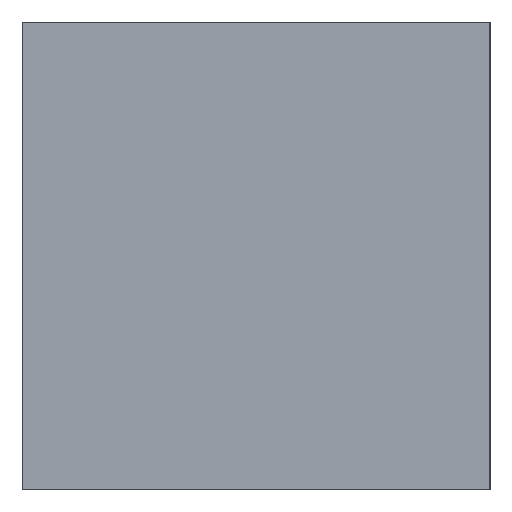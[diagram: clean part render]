
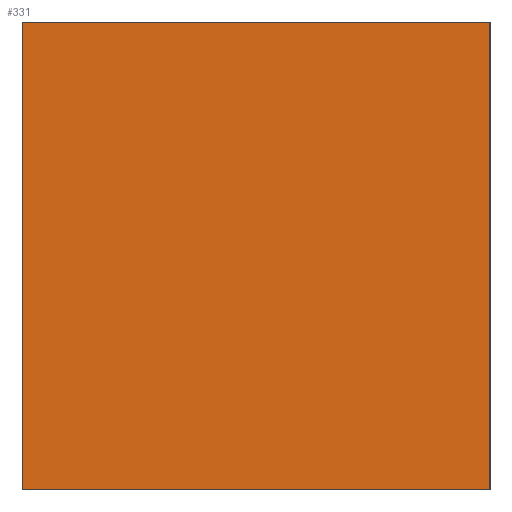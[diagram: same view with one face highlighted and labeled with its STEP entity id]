
A CAD part, left-side view. The second image highlights one B-rep face of the part: STEP entity #331.
In plain terms, the highlighted planar face has unit normal (-1, 0, 0).
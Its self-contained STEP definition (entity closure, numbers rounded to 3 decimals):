
#22 = VERTEX_POINT('',#23);
#23 = CARTESIAN_POINT('',(43.,-39.,4.));
#32 = PLANE('',#33);
#33 = AXIS2_PLACEMENT_3D('',#34,#35,#36);
#34 = CARTESIAN_POINT('',(43.,-39.,4.));
#35 = DIRECTION('',(0.,0.,1.));
#36 = DIRECTION('',(0.,1.,0.));
#44 = PLANE('',#45);
#45 = AXIS2_PLACEMENT_3D('',#46,#47,#48);
#46 = CARTESIAN_POINT('',(43.,-39.,39.));
#47 = DIRECTION('',(0.,1.,0.));
#48 = DIRECTION('',(0.,0.,-1.));
#85 = VERTEX_POINT('',#86);
#86 = CARTESIAN_POINT('',(43.,-4.,4.));
#100 = PLANE('',#101);
#101 = AXIS2_PLACEMENT_3D('',#102,#103,#104);
#102 = CARTESIAN_POINT('',(43.,-4.,4.));
#103 = DIRECTION('',(0.,-1.,0.));
#104 = DIRECTION('',(0.,0.,1.));
#112 = EDGE_CURVE('',#22,#85,#113,.T.);
#113 = SURFACE_CURVE('',#114,(#118,#125),.PCURVE_S1.);
#114 = LINE('',#115,#116);
#115 = CARTESIAN_POINT('',(43.,-39.,4.));
#116 = VECTOR('',#117,1.);
#117 = DIRECTION('',(0.,1.,0.));
#118 = PCURVE('',#32,#119);
#119 = DEFINITIONAL_REPRESENTATION('',(#120),#124);
#120 = LINE('',#121,#122);
#121 = CARTESIAN_POINT('',(0.,0.));
#122 = VECTOR('',#123,1.);
#123 = DIRECTION('',(1.,0.));
#124 = ( GEOMETRIC_REPRESENTATION_CONTEXT(2) 
PARAMETRIC_REPRESENTATION_CONTEXT() REPRESENTATION_CONTEXT('2D SPACE',''
  ) );
#125 = PCURVE('',#126,#131);
#126 = PLANE('',#127);
#127 = AXIS2_PLACEMENT_3D('',#128,#129,#130);
#128 = CARTESIAN_POINT('',(43.,-21.5,21.5));
#129 = DIRECTION('',(1.,0.,0.));
#130 = DIRECTION('',(0.,0.,-1.));
#131 = DEFINITIONAL_REPRESENTATION('',(#132),#136);
#132 = LINE('',#133,#134);
#133 = CARTESIAN_POINT('',(17.5,-17.5));
#134 = VECTOR('',#135,1.);
#135 = DIRECTION('',(0.,1.));
#136 = ( GEOMETRIC_REPRESENTATION_CONTEXT(2) 
PARAMETRIC_REPRESENTATION_CONTEXT() REPRESENTATION_CONTEXT('2D SPACE',''
  ) );
#166 = VERTEX_POINT('',#167);
#167 = CARTESIAN_POINT('',(43.,-4.,39.));
#181 = PLANE('',#182);
#182 = AXIS2_PLACEMENT_3D('',#183,#184,#185);
#183 = CARTESIAN_POINT('',(43.,-4.,39.));
#184 = DIRECTION('',(0.,0.,-1.));
#185 = DIRECTION('',(0.,-1.,0.));
#193 = EDGE_CURVE('',#85,#166,#194,.T.);
#194 = SURFACE_CURVE('',#195,(#199,#206),.PCURVE_S1.);
#195 = LINE('',#196,#197);
#196 = CARTESIAN_POINT('',(43.,-4.,4.));
#197 = VECTOR('',#198,1.);
#198 = DIRECTION('',(0.,0.,1.));
#199 = PCURVE('',#100,#200);
#200 = DEFINITIONAL_REPRESENTATION('',(#201),#205);
#201 = LINE('',#202,#203);
#202 = CARTESIAN_POINT('',(0.,0.));
#203 = VECTOR('',#204,1.);
#204 = DIRECTION('',(1.,0.));
#205 = ( GEOMETRIC_REPRESENTATION_CONTEXT(2) 
PARAMETRIC_REPRESENTATION_CONTEXT() REPRESENTATION_CONTEXT('2D SPACE',''
  ) );
#206 = PCURVE('',#126,#207);
#207 = DEFINITIONAL_REPRESENTATION('',(#208),#212);
#208 = LINE('',#209,#210);
#209 = CARTESIAN_POINT('',(17.5,17.5));
#210 = VECTOR('',#211,1.);
#211 = DIRECTION('',(-1.,0.));
#212 = ( GEOMETRIC_REPRESENTATION_CONTEXT(2) 
PARAMETRIC_REPRESENTATION_CONTEXT() REPRESENTATION_CONTEXT('2D SPACE',''
  ) );
#242 = VERTEX_POINT('',#243);
#243 = CARTESIAN_POINT('',(43.,-39.,39.));
#264 = EDGE_CURVE('',#166,#242,#265,.T.);
#265 = SURFACE_CURVE('',#266,(#270,#277),.PCURVE_S1.);
#266 = LINE('',#267,#268);
#267 = CARTESIAN_POINT('',(43.,-4.,39.));
#268 = VECTOR('',#269,1.);
#269 = DIRECTION('',(0.,-1.,0.));
#270 = PCURVE('',#181,#271);
#271 = DEFINITIONAL_REPRESENTATION('',(#272),#276);
#272 = LINE('',#273,#274);
#273 = CARTESIAN_POINT('',(0.,0.));
#274 = VECTOR('',#275,1.);
#275 = DIRECTION('',(1.,0.));
#276 = ( GEOMETRIC_REPRESENTATION_CONTEXT(2) 
PARAMETRIC_REPRESENTATION_CONTEXT() REPRESENTATION_CONTEXT('2D SPACE',''
  ) );
#277 = PCURVE('',#126,#278);
#278 = DEFINITIONAL_REPRESENTATION('',(#279),#283);
#279 = LINE('',#280,#281);
#280 = CARTESIAN_POINT('',(-17.5,17.5));
#281 = VECTOR('',#282,1.);
#282 = DIRECTION('',(0.,-1.));
#283 = ( GEOMETRIC_REPRESENTATION_CONTEXT(2) 
PARAMETRIC_REPRESENTATION_CONTEXT() REPRESENTATION_CONTEXT('2D SPACE',''
  ) );
#311 = EDGE_CURVE('',#242,#22,#312,.T.);
#312 = SURFACE_CURVE('',#313,(#317,#324),.PCURVE_S1.);
#313 = LINE('',#314,#315);
#314 = CARTESIAN_POINT('',(43.,-39.,39.));
#315 = VECTOR('',#316,1.);
#316 = DIRECTION('',(0.,0.,-1.));
#317 = PCURVE('',#44,#318);
#318 = DEFINITIONAL_REPRESENTATION('',(#319),#323);
#319 = LINE('',#320,#321);
#320 = CARTESIAN_POINT('',(0.,0.));
#321 = VECTOR('',#322,1.);
#322 = DIRECTION('',(1.,0.));
#323 = ( GEOMETRIC_REPRESENTATION_CONTEXT(2) 
PARAMETRIC_REPRESENTATION_CONTEXT() REPRESENTATION_CONTEXT('2D SPACE',''
  ) );
#324 = PCURVE('',#126,#325);
#325 = DEFINITIONAL_REPRESENTATION('',(#326),#330);
#326 = LINE('',#327,#328);
#327 = CARTESIAN_POINT('',(-17.5,-17.5));
#328 = VECTOR('',#329,1.);
#329 = DIRECTION('',(1.,0.));
#330 = ( GEOMETRIC_REPRESENTATION_CONTEXT(2) 
PARAMETRIC_REPRESENTATION_CONTEXT() REPRESENTATION_CONTEXT('2D SPACE',''
  ) );
#331 = ADVANCED_FACE('',(#332),#126,.F.);
#332 = FACE_BOUND('',#333,.F.);
#333 = EDGE_LOOP('',(#334,#335,#336,#337));
#334 = ORIENTED_EDGE('',*,*,#112,.T.);
#335 = ORIENTED_EDGE('',*,*,#193,.T.);
#336 = ORIENTED_EDGE('',*,*,#264,.T.);
#337 = ORIENTED_EDGE('',*,*,#311,.T.);
